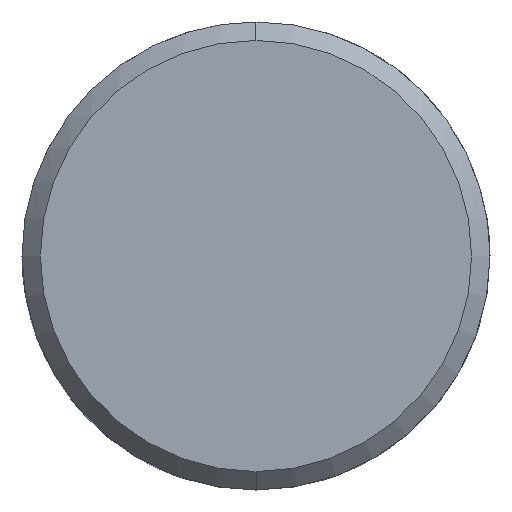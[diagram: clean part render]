
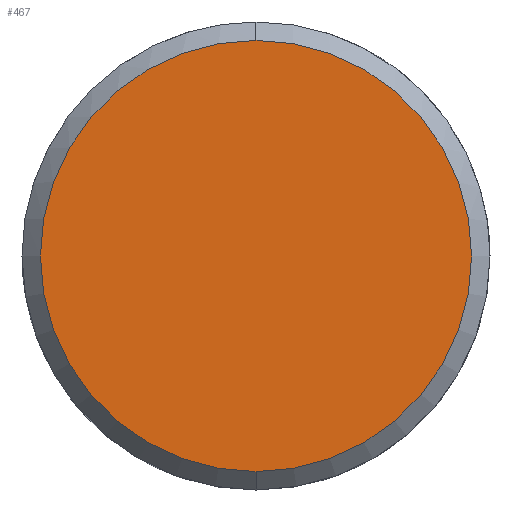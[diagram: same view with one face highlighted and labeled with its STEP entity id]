
A CAD part, left-side view. The second image highlights one B-rep face of the part: STEP entity #467.
In plain terms, the highlighted planar face has unit normal (-1, 0, 0).
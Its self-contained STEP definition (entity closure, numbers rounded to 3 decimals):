
#399=CARTESIAN_POINT('Vertex',(-5.,0.,-8.293)) ;
#402=CARTESIAN_POINT('Axis2P3D Location',(-5.,0.,0.)) ;
#406=CARTESIAN_POINT('Vertex',(-5.,8.293,0.)) ;
#409=CARTESIAN_POINT('Axis2P3D Location',(-5.,0.,0.)) ;
#413=CARTESIAN_POINT('Vertex',(-5.,0.,8.293)) ;
#435=CARTESIAN_POINT('Axis2P3D Location',(-5.,0.,0.)) ;
#439=CARTESIAN_POINT('Vertex',(-5.,-8.293,0.)) ;
#442=CARTESIAN_POINT('Axis2P3D Location',(-5.,0.,0.)) ;
#456=CARTESIAN_POINT('Axis2P3D Location',(-5.,0.,0.)) ;
#403=DIRECTION('Axis2P3D Direction',(1.,0.,-0.)) ;
#410=DIRECTION('Axis2P3D Direction',(1.,0.,-0.)) ;
#436=DIRECTION('Axis2P3D Direction',(1.,0.,-0.)) ;
#443=DIRECTION('Axis2P3D Direction',(1.,0.,-0.)) ;
#457=DIRECTION('Axis2P3D Direction',(1.,0.,-0.)) ;
#458=DIRECTION('Axis2P3D XDirection',(-0.,0.,-1.)) ;
#404=AXIS2_PLACEMENT_3D('Circle Axis2P3D',#402,#403,$) ;
#411=AXIS2_PLACEMENT_3D('Circle Axis2P3D',#409,#410,$) ;
#437=AXIS2_PLACEMENT_3D('Circle Axis2P3D',#435,#436,$) ;
#444=AXIS2_PLACEMENT_3D('Circle Axis2P3D',#442,#443,$) ;
#459=AXIS2_PLACEMENT_3D('Plane Axis2P3D',#456,#457,#458) ;
#462=ORIENTED_EDGE('',*,*,#408,.F.) ;
#463=ORIENTED_EDGE('',*,*,#446,.F.) ;
#464=ORIENTED_EDGE('',*,*,#441,.F.) ;
#465=ORIENTED_EDGE('',*,*,#415,.F.) ;
#467=ADVANCED_FACE('382F-18',(#466),#460,.F.) ;
#405=CIRCLE('generated circle',#404,8.293) ;
#412=CIRCLE('generated circle',#411,8.293) ;
#438=CIRCLE('generated circle',#437,8.293) ;
#445=CIRCLE('generated circle',#444,8.293) ;
#408=EDGE_CURVE('',#400,#407,#405,.T.) ;
#415=EDGE_CURVE('',#407,#414,#412,.T.) ;
#441=EDGE_CURVE('',#414,#440,#438,.T.) ;
#446=EDGE_CURVE('',#440,#400,#445,.T.) ;
#461=EDGE_LOOP('',(#462,#463,#464,#465)) ;
#466=FACE_OUTER_BOUND('',#461,.T.) ;
#460=PLANE('Plane',#459) ;
#400=VERTEX_POINT('',#399) ;
#407=VERTEX_POINT('',#406) ;
#414=VERTEX_POINT('',#413) ;
#440=VERTEX_POINT('',#439) ;
